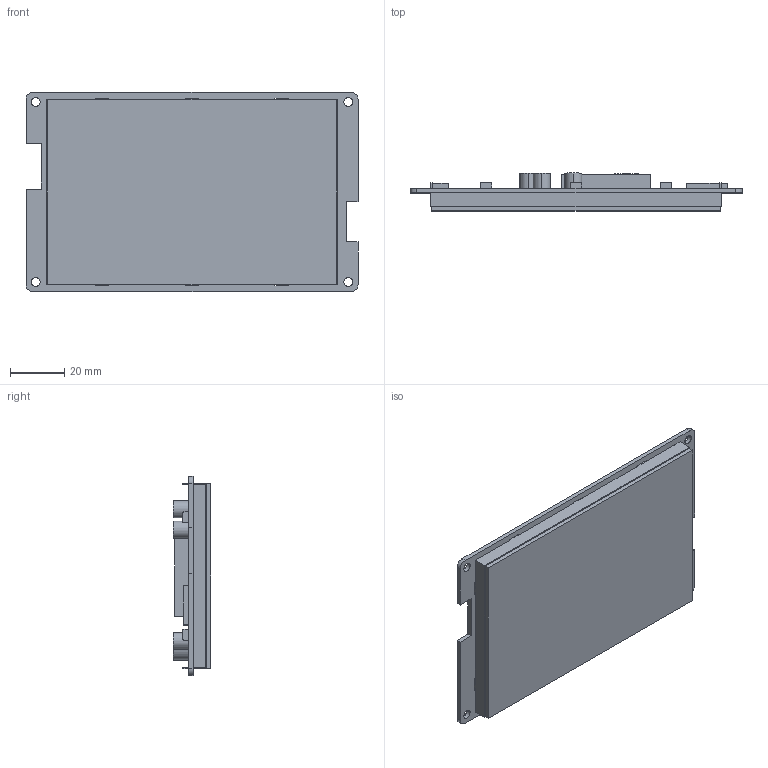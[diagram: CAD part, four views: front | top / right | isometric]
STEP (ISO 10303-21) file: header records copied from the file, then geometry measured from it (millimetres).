
FILE_DESCRIPTION((''),'2;1');
FILE_NAME('ASM0001_ASM','2019-08-27T',('Administrator'),(''),'PRO/ENGINEER BY PARAMETRIC TECHNOLOGY CORPORATION, 2011310','PRO/ENGINEER BY PARAMETRIC TECHNOLOGY CORPORATION, 2011310','');
FILE_SCHEMA(('CONFIG_CONTROL_DESIGN','SHAPE_APPEARANCE_LAYERS_GROUPS'));
Length unit declared in the file: millimetre
Products named in the file (5): TK043000; 043IPS; RTP; PCB-20190816; ASM0001_ASM
Assembly tree (4 placements, depth 2):
  ASM0001_ASM
    TK043000
    043IPS
    RTP
    PCB-20190816
Bounding box: 121.92 x 13.85 x 73.15 mm (x, y, z)
Volume: 52128.4 mm3; surface area: 57237.5 mm2
Topology: 4 solids, 4 shells, 241 faces, 669 edges, 446 vertices
Faces by surface type: plane 186, cylinder 55
Entity records: 9167 total; most frequent: CARTESIAN_POINT 1365, ORIENTED_EDGE 1338, DIRECTION 1279, EDGE_CURVE 669, VECTOR 559, LINE 559, VERTEX_POINT 446, PRESENTATION_STYLE_ASSIGNMENT 387
